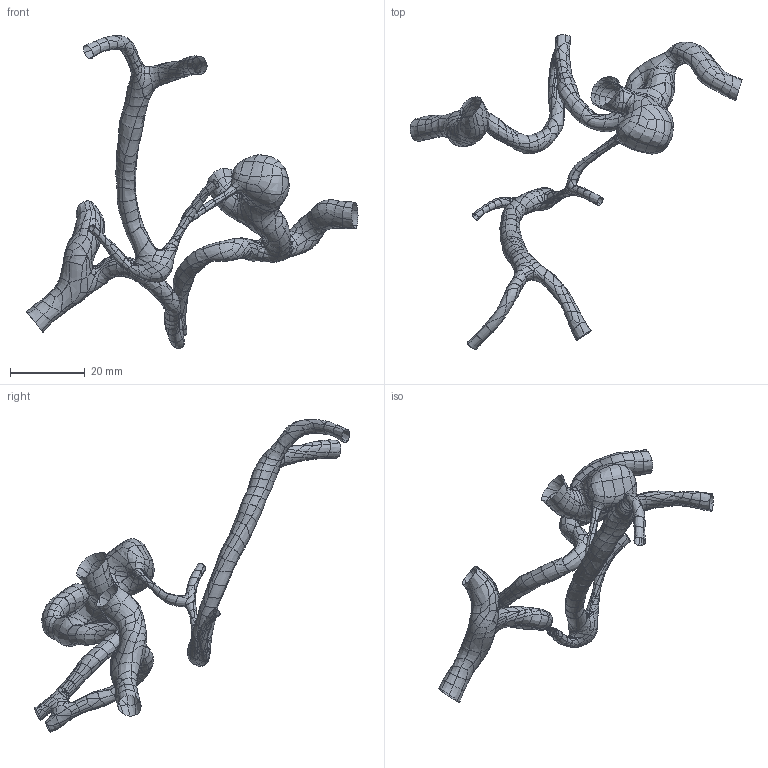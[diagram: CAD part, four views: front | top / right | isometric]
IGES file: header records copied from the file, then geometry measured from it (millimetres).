
Start section: Geomagic Studio
Global section: file name: D:\Ansys\EvseevaStent\Final.igs; native system: Geomagic -- Studio 2014; preprocessor: 2014; author: <unspecified>; organization: <unspecified>; date: 20190226.212515; units: millimetre
Bounding box: 89.11 x 84.57 x 83.97 mm (x, y, z)
Surface area: 6535.5 mm2 (no closed solid volume)
Topology: 0 solids, 0 shells, 1126 faces, 4504 edges, 4504 vertices
Faces by surface type: bspline 1126
